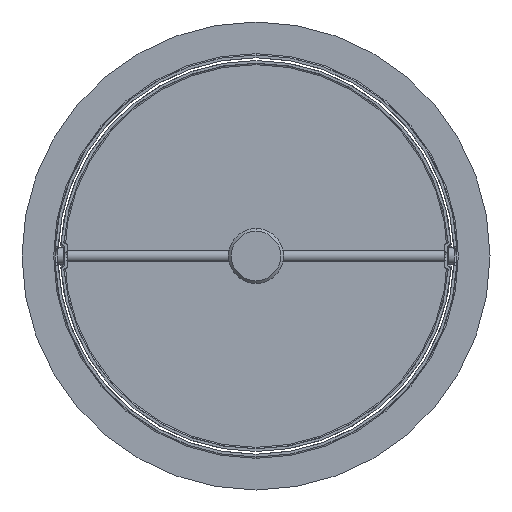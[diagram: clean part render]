
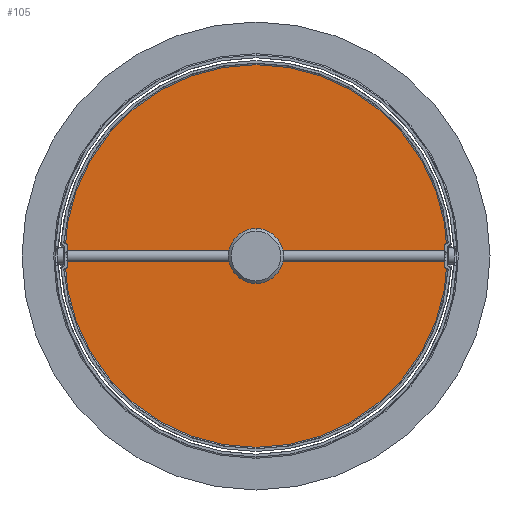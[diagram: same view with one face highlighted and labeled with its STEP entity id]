
A CAD part, front view. The second image highlights one B-rep face of the part: STEP entity #105.
In plain terms, the highlighted planar face has unit normal (0, -1, 0).
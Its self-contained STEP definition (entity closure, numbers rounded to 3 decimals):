
#105 = ADVANCED_FACE ( 'NONE', ( #1542 ), #4067, .F. ) ;
#567 = CARTESIAN_POINT ( 'NONE',  ( 0., -1., 0. ) ) ;
#568 = DIRECTION ( 'NONE',  ( 0., -1., 0. ) ) ;
#573 = DIRECTION ( 'NONE',  ( 0., 0., 1. ) ) ;
#673 = CARTESIAN_POINT ( 'NONE',  ( 0., -1., 0. ) ) ;
#674 = DIRECTION ( 'NONE',  ( 0., -1., 0. ) ) ;
#675 = DIRECTION ( 'NONE',  ( 0., 0., 1. ) ) ;
#1542 = FACE_OUTER_BOUND ( 'NONE', #1591, .T. ) ;
#1591 = EDGE_LOOP ( 'NONE', ( #5608, #5607 ) ) ;
#1767 = VERTEX_POINT ( 'NONE', #3607 ) ;
#1776 = VERTEX_POINT ( 'NONE', #3585 ) ;
#2031 = AXIS2_PLACEMENT_3D ( 'NONE', #4064, #4066, #4069 ) ;
#2244 = CIRCLE ( 'NONE', #2246, 69.5 ) ;
#2246 = AXIS2_PLACEMENT_3D ( 'NONE', #567, #568, #573 ) ;
#2268 = CIRCLE ( 'NONE', #2275, 69.5 ) ;
#2275 = AXIS2_PLACEMENT_3D ( 'NONE', #673, #674, #675 ) ;
#3585 = CARTESIAN_POINT ( 'NONE',  ( 0., -1., 69.5 ) ) ;
#3607 = CARTESIAN_POINT ( 'NONE',  ( 0., -1., -69.5 ) ) ;
#4064 = CARTESIAN_POINT ( 'NONE',  ( 0., -1., 0. ) ) ;
#4066 = DIRECTION ( 'NONE',  ( 0., 1., 0. ) ) ;
#4067 = PLANE ( 'NONE',  #2031 ) ;
#4069 = DIRECTION ( 'NONE',  ( 0., 0., 1. ) ) ;
#5607 = ORIENTED_EDGE ( 'NONE', *, *, #6174, .T. ) ;
#5608 = ORIENTED_EDGE ( 'NONE', *, *, #6155, .T. ) ;
#6155 = EDGE_CURVE ( 'NONE', #1776, #1767, #2244, .T. ) ;
#6174 = EDGE_CURVE ( 'NONE', #1767, #1776, #2268, .T. ) ;
